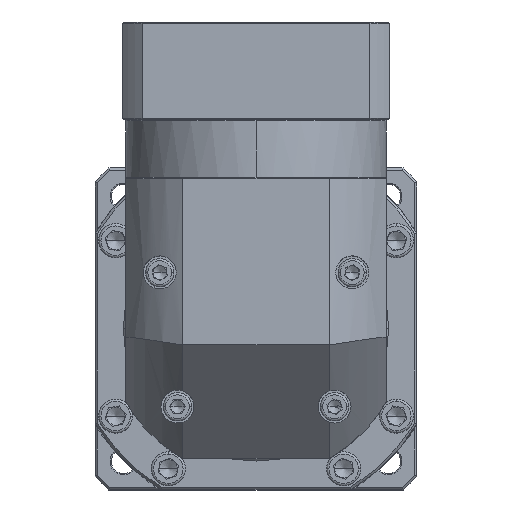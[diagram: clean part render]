
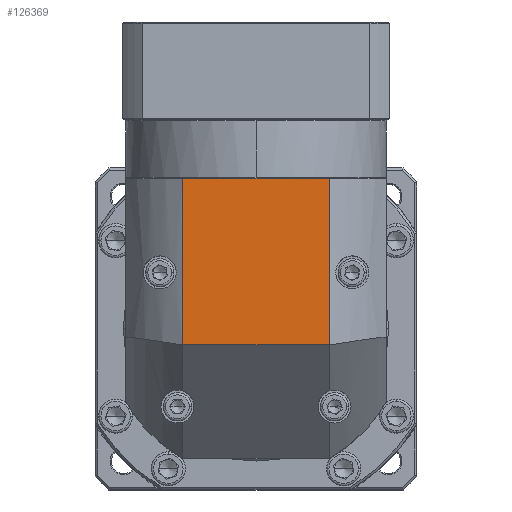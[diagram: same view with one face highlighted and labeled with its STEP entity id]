
A CAD part, top view. The second image highlights one B-rep face of the part: STEP entity #126369.
In plain terms, the highlighted planar face has unit normal (0, 0, 1).
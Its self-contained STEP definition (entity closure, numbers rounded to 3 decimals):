
#1206 = VERTEX_POINT ( 'NONE', #1339 ) ;
#1339 = CARTESIAN_POINT ( 'NONE',  ( -122.262, 109.192, 73.625 ) ) ;
#5087 = VECTOR ( 'NONE', #130090, 1000. ) ;
#5329 = EDGE_CURVE ( 'NONE', #1206, #55646, #100241, .T. ) ;
#12314 = VECTOR ( 'NONE', #25058, 1000. ) ;
#14381 = EDGE_CURVE ( 'NONE', #100262, #1206, #99237, .T. ) ;
#14528 = DIRECTION ( 'NONE',  ( 1., 0., 0. ) ) ;
#18247 = LINE ( 'NONE', #20366, #142730 ) ;
#20366 = CARTESIAN_POINT ( 'NONE',  ( -212.162, 35.792, 73.625 ) ) ;
#24812 = VERTEX_POINT ( 'NONE', #26001 ) ;
#25058 = DIRECTION ( 'NONE',  ( 0., 1., 0. ) ) ;
#26001 = CARTESIAN_POINT ( 'NONE',  ( -187.061, 35.792, 73.625 ) ) ;
#31686 = CARTESIAN_POINT ( 'NONE',  ( -187.061, 109.192, 73.625 ) ) ;
#48403 = CARTESIAN_POINT ( 'NONE',  ( -187.061, -14.208, 73.625 ) ) ;
#49816 = DIRECTION ( 'NONE',  ( 0., 0., -1. ) ) ;
#50317 = CARTESIAN_POINT ( 'NONE',  ( -154.662, 43.292, 73.625 ) ) ;
#55646 = VERTEX_POINT ( 'NONE', #73401 ) ;
#56432 = EDGE_LOOP ( 'NONE', ( #68361, #69565, #132584, #138695 ) ) ;
#65680 = LINE ( 'NONE', #48403, #12314 ) ;
#66565 = DIRECTION ( 'NONE',  ( -1., 0., 0. ) ) ;
#66848 = CARTESIAN_POINT ( 'NONE',  ( -122.262, -14.208, 73.625 ) ) ;
#68361 = ORIENTED_EDGE ( 'NONE', *, *, #76106, .F. ) ;
#69565 = ORIENTED_EDGE ( 'NONE', *, *, #143476, .F. ) ;
#70162 = VECTOR ( 'NONE', #101019, 1000. ) ;
#73401 = CARTESIAN_POINT ( 'NONE',  ( -122.262, 35.792, 73.625 ) ) ;
#76106 = EDGE_CURVE ( 'NONE', #24812, #100262, #65680, .T. ) ;
#83080 = PLANE ( 'NONE',  #94473 ) ;
#94473 = AXIS2_PLACEMENT_3D ( 'NONE', #50317, #49816, #14528 ) ;
#99237 = LINE ( 'NONE', #114640, #5087 ) ;
#100241 = LINE ( 'NONE', #66848, #70162 ) ;
#100262 = VERTEX_POINT ( 'NONE', #31686 ) ;
#101019 = DIRECTION ( 'NONE',  ( 0., -1., 0. ) ) ;
#114640 = CARTESIAN_POINT ( 'NONE',  ( -212.162, 109.192, 73.625 ) ) ;
#124525 = FACE_OUTER_BOUND ( 'NONE', #56432, .T. ) ;
#126369 = ADVANCED_FACE ( 'NONE', ( #124525 ), #83080, .F. ) ;
#130090 = DIRECTION ( 'NONE',  ( 1., 0., 0. ) ) ;
#132584 = ORIENTED_EDGE ( 'NONE', *, *, #5329, .F. ) ;
#138695 = ORIENTED_EDGE ( 'NONE', *, *, #14381, .F. ) ;
#142730 = VECTOR ( 'NONE', #66565, 1000. ) ;
#143476 = EDGE_CURVE ( 'NONE', #55646, #24812, #18247, .T. ) ;
